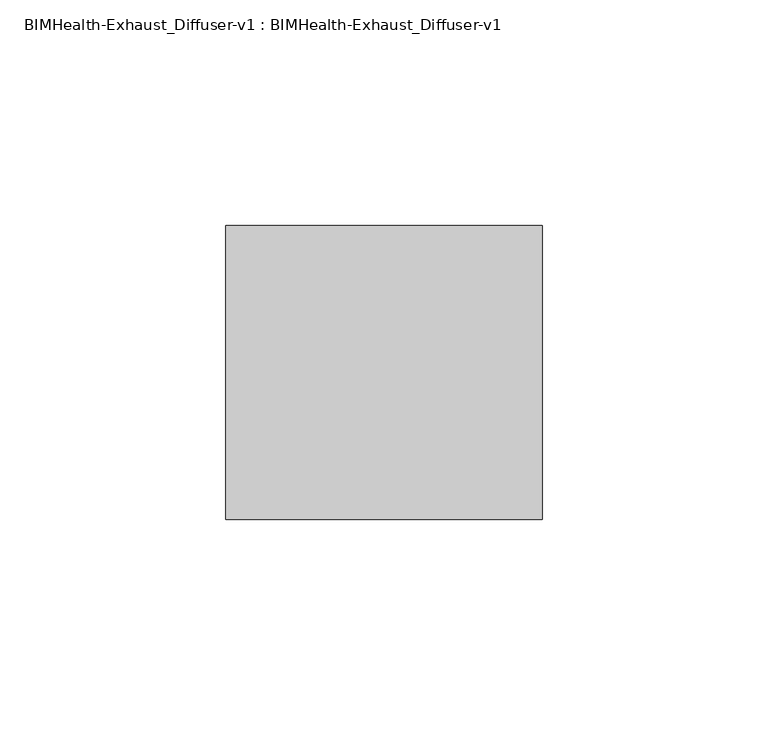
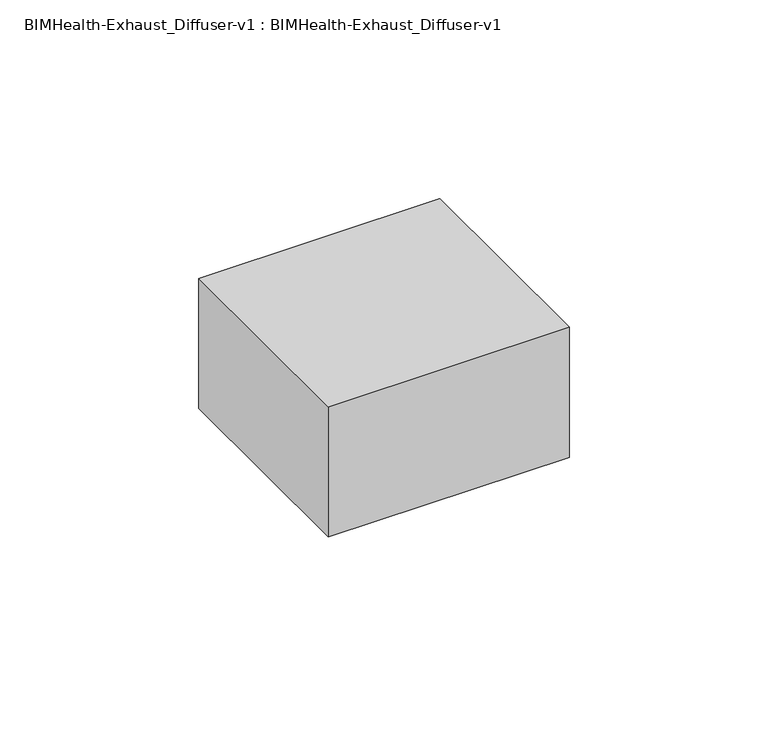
"""IFC4 building model written with IfcOpenShell, lengths in millimetres: proxy geometry, BIMHealth-Exhaust_Diffuser-v1 : BIMHealth-Exhaust_Diffuser-v1."""

from ifc_helpers import new_model, si_unit, frame, origin, place, context, project, spatial, polyline, outline, extrude, source, transform, mapped, element, save


def bimhealth_exhaust_diffuser_v1_bimhealth_exhaust_diffuser_v1_c0e02c9f(model_context):
    return source(origin(), model_context, "Body", "SweptSolid", [
        extrude(outline(polyline([(35.5247328, 32.0492494), (35.5247328, -32.9507506), (-34.4752672, -32.9507506), (-34.4752672, 32.0492494), (35.5247328, 32.0492494)])), frame((0.0, 0.0, 2398.4), z_axis=(0.0, 0.0, 1.0), x_axis=(1.0, 0.0, 0.0)), (0.0, 0.0, 1.0), 40.0),
    ])


if __name__ == "__main__":
    model = new_model("IFC4")
    model_context = context("Model", 3, world=origin())
    ifc_project = project(units=[si_unit("LENGTHUNIT", "METRE", prefix="MILLI")], contexts=[model_context])
    site = spatial("IfcSite", under=ifc_project)
    building = spatial("IfcBuilding", under=site)
    placement = place(None, origin())
    bimhealth_exhaust_diffuser_v1_bimhealth_exhaust_diffuser_v1_shape = bimhealth_exhaust_diffuser_v1_bimhealth_exhaust_diffuser_v1_c0e02c9f(model_context)
    element("IfcBuildingElementProxy", 1, Name="BIMHealth-Exhaust_Diffuser-v1 : BIMHealth-Exhaust_Diffuser-v1", ObjectType="BIMHealth-Exhaust_Diffuser-v1 : BIMHealth-Exhaust_Diffuser-v1", at=placement, inside=building, context=model_context, shape_type="MappedRepresentation", body=[
        mapped(bimhealth_exhaust_diffuser_v1_bimhealth_exhaust_diffuser_v1_shape, transform((0.0, 0.0, 0.0), x_axis=(1.0, 0.0, 0.0), y_axis=(0.0, 1.0, 0.0), z_axis=(0.0, 0.0, 1.0))),
    ])
    save(model, "model.ifc")
